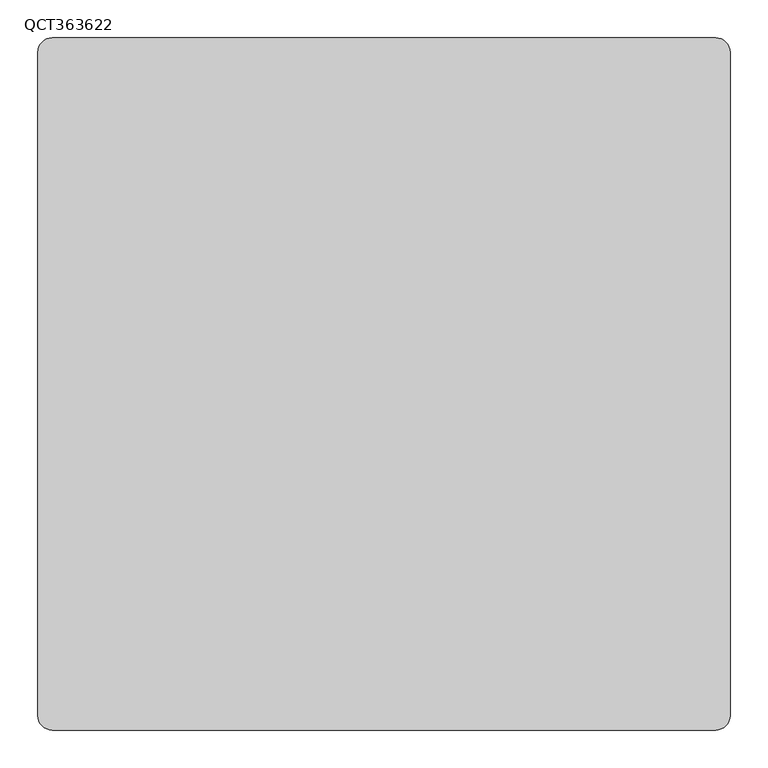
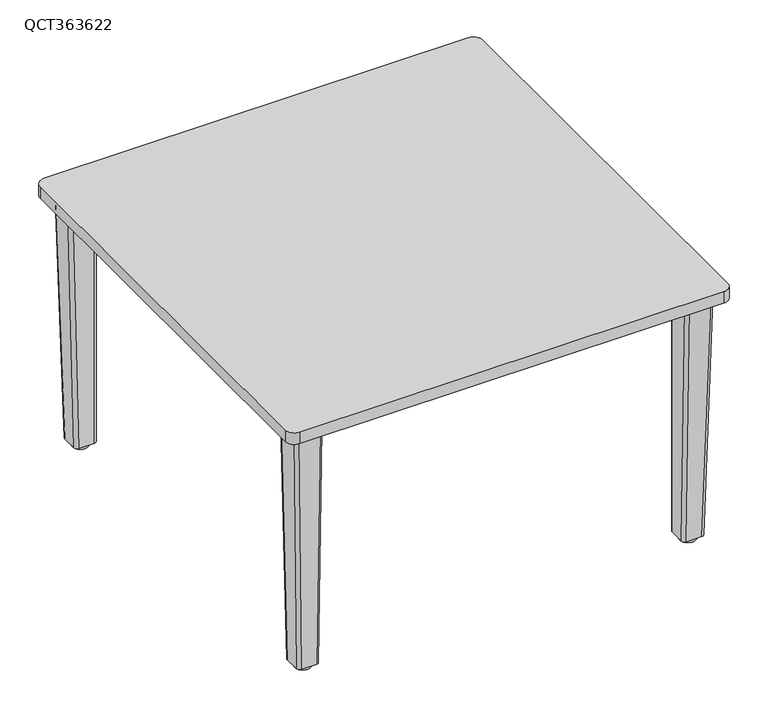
"""IFC4 building model written with IfcOpenShell, lengths in millimetres: furniture geometry, Leland-Quince-Table_Square : QCT363622."""

import ifcopenshell
import ifcopenshell.guid

model = None  # the IFC model being written
_history = None  # IfcOwnerHistory: only IFC2X3 demands one
_inside = {}  # id of a spatial element -> (the spatial element, [elements in it])
_under = {}  # id of a project, library or spatial element -> (it, [spatial elements below it])
_declared = {}  # id of a project -> (the project, [libraries it declares])
_typed = {}  # id of a type object -> (the type object, [elements of that type])
_made_of = {}  # id of a material, layer set ... -> (it, [elements and type objects made of it])


def new_model(schema):
    """Start an empty IFC model of exactly this schema.

    Asked for "IFC4X3", IfcOpenShell would pick the latest addendum, in which some entities
    have other attributes; the version numbers below select the first issue.
    IFC2X3 requires an IfcOwnerHistory on every rooted entity: one is made here for all.
    """
    global model, _history
    if schema == "IFC4X3":
        model = ifcopenshell.file(schema_version=(4, 3, 0, 0))
    else:
        model = ifcopenshell.file(schema=schema)
    _inside.clear()
    _under.clear()
    _declared.clear()
    _typed.clear()
    _made_of.clear()
    _history = None
    if model.schema == "IFC2X3":
        org = make("IfcOrganization", Name="unknown")
        user = make(
            "IfcPersonAndOrganization",
            ThePerson=make("IfcPerson", FamilyName="unknown"),
            TheOrganization=org,
        )
        app = make(
            "IfcApplication",
            ApplicationDeveloper=org,
            Version="unknown",
            ApplicationFullName="unknown",
            ApplicationIdentifier="unknown",
        )
        _history = make(
            "IfcOwnerHistory",
            OwningUser=user,
            OwningApplication=app,
            ChangeAction="ADDED",
            CreationDate=0,
        )
    return model


def make(cls, **values):
    """One entity of the class cls with the attributes given. An attribute that is None is left unset."""
    return model.create_entity(
        cls, **{name: value for name, value in values.items() if value is not None}
    )


def rooted(cls, **values):
    """An entity with a GlobalId (a new one), such as an element, a storey or a relation."""
    return make(cls, GlobalId=ifcopenshell.guid.new(), OwnerHistory=_history, **values)


def si_unit(unit_type, name, prefix=None):
    """IfcSIUnit, for example si_unit("LENGTHUNIT", "METRE", prefix="MILLI")."""
    return make("IfcSIUnit", UnitType=unit_type, Prefix=prefix, Name=name)


def assignment(units):
    """IfcUnitAssignment: the units of a project."""
    return None if units is None else make("IfcUnitAssignment", Units=units)


def point(xyz):
    """IfcCartesianPoint."""
    return None if xyz is None else make("IfcCartesianPoint", Coordinates=xyz)


def direction(xyz):
    """IfcDirection."""
    return None if xyz is None else make("IfcDirection", DirectionRatios=xyz)


def frame(location, z_axis=None, x_axis=None):
    """IfcAxis2Placement3D, a coordinate frame: its origin and axes. An axis left out is left unset."""
    return make(
        "IfcAxis2Placement3D",
        Location=point(location),
        Axis=direction(z_axis),
        RefDirection=direction(x_axis),
    )


def frame_2d(location, x_axis=None):
    """IfcAxis2Placement2D, a coordinate frame in the plane: its origin and x axis."""
    return make(
        "IfcAxis2Placement2D", Location=point(location), RefDirection=direction(x_axis)
    )


def origin():
    """The frame at (0, 0, 0) with its axes left unset."""
    return frame((0.0, 0.0, 0.0))


def origin_with_axes():
    """The frame at (0, 0, 0) with the z axis (0, 0, 1) and the x axis (1, 0, 0) written out."""
    return frame((0.0, 0.0, 0.0), z_axis=(0.0, 0.0, 1.0), x_axis=(1.0, 0.0, 0.0))


def place(relative_to, where):
    """IfcLocalPlacement: puts the frame where relative to a parent placement (None: the world)."""
    return make(
        "IfcLocalPlacement", PlacementRelTo=relative_to, RelativePlacement=where
    )


def context(
    kind, dimensions, precision=None, world=None, true_north=None, identifier=None
):
    """IfcGeometricRepresentationContext, for example the 3D "Model" context."""
    return make(
        "IfcGeometricRepresentationContext",
        ContextIdentifier=identifier,
        ContextType=kind,
        CoordinateSpaceDimension=dimensions,
        Precision=precision,
        WorldCoordinateSystem=world,
        TrueNorth=true_north,
    )


def project(units=None, contexts=None):
    """IfcProject with its units and contexts."""
    return rooted(
        "IfcProject",
        Name="project",
        RepresentationContexts=contexts,
        UnitsInContext=assignment(units),
    )


def spatial(cls, under=None, at=None, **own):
    """A site, building, storey or space (cls), placed at a placement, below another one or the project."""
    s = rooted(cls, ObjectPlacement=at, **own)
    if under is not None:
        _under.setdefault(under.id(), (under, []))[1].append(s)
    return s


def polyline(points):
    """IfcPolyline through the points."""
    return make("IfcPolyline", Points=[point(p) for p in points])


def circle_curve(where, radius):
    """IfcCircle in the frame where."""
    return make("IfcCircle", Position=where, Radius=radius)


def trimmed(basis, trim1, trim2, sense, master):
    """IfcTrimmedCurve: the piece of a basis curve between two trims."""
    return make(
        "IfcTrimmedCurve",
        BasisCurve=basis,
        Trim1=trim1,
        Trim2=trim2,
        SenseAgreement=sense,
        MasterRepresentation=master,
    )


def segment(curve, same_sense, transition):
    """IfcCompositeCurveSegment."""
    return make(
        "IfcCompositeCurveSegment",
        Transition=transition,
        SameSense=same_sense,
        ParentCurve=curve,
    )


def composite_curve(segments, self_intersect=None):
    """IfcCompositeCurve: segments joined end to end."""
    return make("IfcCompositeCurve", Segments=segments, SelfIntersect=self_intersect)


def outline(outer, holes=None, kind="AREA"):
    """IfcArbitraryClosedProfileDef: a profile drawn as a closed curve; with holes, ...WithVoids."""
    if holes is None:
        return make("IfcArbitraryClosedProfileDef", ProfileType=kind, OuterCurve=outer)
    return make(
        "IfcArbitraryProfileDefWithVoids",
        ProfileType=kind,
        OuterCurve=outer,
        InnerCurves=holes,
    )


def extrude(swept, where, along, depth):
    """IfcExtrudedAreaSolid: the profile swept, set in the frame where, extruded along a direction by depth."""
    return make(
        "IfcExtrudedAreaSolid",
        SweptArea=swept,
        Position=where,
        ExtrudedDirection=direction(along),
        Depth=depth,
    )


def shape(context_of_items, identifier, shape_type, items):
    """IfcShapeRepresentation: the items that make up one representation, for example the "Body"."""
    return make(
        "IfcShapeRepresentation",
        ContextOfItems=context_of_items,
        RepresentationIdentifier=identifier,
        RepresentationType=shape_type,
        Items=items,
    )


def source(mapping_origin, context_of_items, identifier, shape_type, items):
    """IfcRepresentationMap: a shape defined once, which mapped items show again and again."""
    return make(
        "IfcRepresentationMap",
        MappingOrigin=mapping_origin,
        MappedRepresentation=shape(context_of_items, identifier, shape_type, items),
    )


def transform(
    local_origin,
    x_axis=None,
    y_axis=None,
    z_axis=None,
    scale=None,
    scale2=None,
    scale3=None,
    uniform=True,
):
    """IfcCartesianTransformationOperator3D, or its non-uniform kind. x_axis, y_axis, z_axis: its Axis1, 2, 3."""
    if uniform:
        return make(
            "IfcCartesianTransformationOperator3D",
            Axis1=direction(x_axis),
            Axis2=direction(y_axis),
            LocalOrigin=point(local_origin),
            Scale=scale,
            Axis3=direction(z_axis),
        )
    return make(
        "IfcCartesianTransformationOperator3DnonUniform",
        Axis1=direction(x_axis),
        Axis2=direction(y_axis),
        LocalOrigin=point(local_origin),
        Scale=scale,
        Axis3=direction(z_axis),
        Scale2=scale2,
        Scale3=scale3,
    )


def mapped(mapping_source, mapping_target):
    """IfcMappedItem: shows the shape of a source again, moved by a transform."""
    return make(
        "IfcMappedItem", MappingSource=mapping_source, MappingTarget=mapping_target
    )


def made_of(thing, what):
    """Note that an element or type object is made of a material, layer set ...; save() writes the relation."""
    if what is not None:
        _made_of.setdefault(what.id(), (what, []))[1].append(thing)
    return thing


def element(
    cls,
    number,
    at=None,
    inside=None,
    cuts=None,
    type_object=None,
    material=None,
    context=None,
    identifier="Body",
    shape_type=None,
    held_by="IfcProductDefinitionShape",
    body=None,
    shapes=None,
    **own,
):
    """One element of the class cls, such as IfcWall. Its Tag is "e" and its number.

    at: its placement. inside: the storey or other place that contains it. cuts: it is an
    opening in that element (IfcRelVoidsElement). A single representation is given by context,
    identifier, shape_type and body (its items); several are given by shapes. held_by: the class
    of the entity that holds the representations. save() writes the other relations.
    """
    e = rooted(cls, Tag="e%d" % number, ObjectPlacement=at, **own)
    if body is not None:
        shapes = [shape(context, identifier, shape_type, body)]
    if shapes is not None:
        e.Representation = make(held_by, Representations=shapes)
    if inside is not None:
        _inside.setdefault(inside.id(), (inside, []))[1].append(e)
    if cuts is not None:
        rooted(
            "IfcRelVoidsElement", RelatingBuildingElement=cuts, RelatedOpeningElement=e
        )
    if type_object is not None:
        _typed.setdefault(type_object.id(), (type_object, []))[1].append(e)
    return made_of(e, material)


def aggregate(whole, parts):
    """IfcRelAggregates: a whole, such as a stair, and the parts it consists of."""
    return rooted("IfcRelAggregates", RelatingObject=whole, RelatedObjects=parts)


def save(model, path):
    """Write the relations noted so far, then the file.

    IfcRelAggregates (storeys below a building ...), IfcRelContainedInSpatialStructure (elements
    in a storey), IfcRelDefinesByType, IfcRelAssociatesMaterial and IfcRelDeclares: one each for
    every whole, place, type object, material and project.
    """
    for whole, parts in _under.values():
        aggregate(whole, parts)
    for where, things in _inside.values():
        rooted(
            "IfcRelContainedInSpatialStructure",
            RelatedElements=things,
            RelatingStructure=where,
        )
    for kind, things in _typed.values():
        rooted("IfcRelDefinesByType", RelatedObjects=things, RelatingType=kind)
    for what, things in _made_of.values():
        rooted("IfcRelAssociatesMaterial", RelatedObjects=things, RelatingMaterial=what)
    for by, libraries in _declared.values():
        rooted("IfcRelDeclares", RelatingContext=by, RelatedDefinitions=libraries)
    model.write(path)


def plane_surface(at):
    """IfcPlane: the flat surface through the origin of the frame at, square to its z axis."""
    return make("IfcPlane", Position=at)


def cylinder_surface(at, radius):
    """IfcCylindricalSurface: all points at the distance radius from the z axis of the frame at."""
    return make("IfcCylindricalSurface", Position=at, Radius=radius)


def extruded_surface(curve, direction_of_extrusion, depth):
    """IfcSurfaceOfLinearExtrusion: the curve pushed along a direction by depth."""
    return make(
        "IfcSurfaceOfLinearExtrusion",
        SweptCurve=make("IfcArbitraryOpenProfileDef", ProfileType="CURVE", Curve=curve),
        ExtrudedDirection=direction(direction_of_extrusion),
        Depth=depth,
    )


def advanced_brep(points, edges, surfaces, faces):
    """IfcAdvancedBrep: a solid bounded by faces that lie on surfaces and meet in shared edges.

    An edge is (start, end): straight between two places in points (the first is 0);
    or (start, end, curve); or (start, end, curve, False) where it runs against its curve.
    A face is (place in surfaces, loops), or (place, loops, False) where it looks against
    its surface's normal. A loop lists edges by number (the first is 1), with a minus sign
    where the edge is run from its end to its start. The first loop is the outer one.
    """
    corners = [point(p) for p in points]
    vertices = [make("IfcVertexPoint", VertexGeometry=c) for c in corners]
    made = []
    for start, end, *more in edges:
        made.append(
            make(
                "IfcEdgeCurve",
                EdgeStart=vertices[start],
                EdgeEnd=vertices[end],
                EdgeGeometry=more[0] if more else make("IfcPolyline", Points=[corners[start], corners[end]]),
                SameSense=more[1] if len(more) > 1 else True,
            )
        )
    hull = []
    for where, loops, *sense in faces:
        bounds = []
        for j, loop in enumerate(loops):
            ring = [make("IfcOrientedEdge", EdgeElement=made[abs(k) - 1], Orientation=k > 0) for k in loop]
            bounds.append(
                make(
                    "IfcFaceOuterBound" if j == 0 else "IfcFaceBound",
                    Bound=make("IfcEdgeLoop", EdgeList=ring),
                    Orientation=True,
                )
            )
        hull.append(make("IfcAdvancedFace", Bounds=bounds, FaceSurface=surfaces[where], SameSense=sense[0] if sense else True))
    return make("IfcAdvancedBrep", Outer=make("IfcClosedShell", CfsFaces=hull))


def qct363622_fa148c54(model_context):
    return source(origin(), model_context, "Body", "SolidModel", [
        advanced_brep(
        [(426.2299122, -375.4482078, 528.6487443), (381.7799122, -375.4482078, 528.6487443), (375.4299122, -381.7982078, 528.6487443), (375.4299122, -426.2482078, 528.6487443), (381.7799122, -432.5982078, 528.6487443), (426.2299122, -432.5982078, 528.6487443), (432.5799122, -426.2482078, 528.6487443), (432.5799122, -381.7982078, 528.6487443), (413.9392552, -375.4482078, 9.5377), (420.2892552, -381.7982078, 9.5377), (420.2892552, -413.9651364, 9.5377), (413.9392552, -420.3151364, 9.5377), (381.7799122, -420.3151364, 9.5377), (375.4299122, -413.9651364, 9.5377), (375.4299122, -381.7982078, 9.5377), (381.7799122, -375.4482078, 9.5377)],
        [
            (0, 1),
            (1, 2, circle_curve(frame((381.7799122, -381.7982078, 528.6487443), z_axis=(0.0, 0.0, 1.0), x_axis=(-1.0, 0.0, 0.0)), 6.35)),
            (2, 3),
            (3, 4, circle_curve(frame((381.7799122, -426.2482078, 528.6487443), z_axis=(0.0, 0.0, 1.0), x_axis=(-1.0, 0.0, 0.0)), 6.35)),
            (4, 5),
            (5, 6, circle_curve(frame((426.2299122, -426.2482078, 528.6487443), z_axis=(0.0, 0.0, 1.0), x_axis=(-1.0, 0.0, 0.0)), 6.35)),
            (6, 7),
            (7, 0, circle_curve(frame((426.2299122, -381.7982078, 528.6487443), z_axis=(0.0, 0.0, 1.0), x_axis=(-1.0, 0.0, 0.0)), 6.35)),
            (8, 9, circle_curve(frame((413.9392552, -381.7982078, 9.5377), z_axis=(0.0, 0.0, -1.0), x_axis=(-1.0, 0.0, 0.0)), 6.35)),
            (9, 10),
            (10, 11, circle_curve(frame((413.9392552, -413.9651364, 9.5377), z_axis=(0.0, 0.0, -1.0), x_axis=(-1.0, 0.0, 0.0)), 6.35)),
            (11, 12),
            (12, 13, circle_curve(frame((381.7799122, -413.9651364, 9.5377), z_axis=(0.0, 0.0, -1.0), x_axis=(-1.0, 0.0, 0.0)), 6.35)),
            (13, 14),
            (14, 15, circle_curve(frame((381.7799122, -381.7982078, 9.5377), z_axis=(0.0, 0.0, -1.0), x_axis=(-1.0, 0.0, 0.0)), 6.35)),
            (15, 8),
            (8, 0),
            (7, 9),
            (6, 10),
            (5, 11),
            (4, 12),
            (3, 13),
            (2, 14),
            (1, 15),
        ],
        [
            plane_surface(frame((404.0049122, -404.0232078, 528.6487443), z_axis=(0.0, 0.0, 1.0), x_axis=(1.0, 0.0, 0.0))),
            plane_surface(frame((397.8595837, -397.8816721, 9.5377), z_axis=(0.0, 0.0, -1.0), x_axis=(1.0, 0.0, 0.0))),
            extruded_surface(trimmed(circle_curve(frame((413.9392552, -381.7982078, 9.5377), z_axis=(0.0, 0.0, 1.0), x_axis=(-1.0, 0.0, 0.0)), 6.35), [point((420.2892552, -381.7982078, 9.5377))], [point((413.9392552, -375.4482078, 9.5377))], True, "CARTESIAN"), (12.29065700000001, 0.0, 519.1110443), 519.2565228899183),
            plane_surface(frame((420.2892552, -397.8816721, 9.5377), z_axis=(0.999719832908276, 0.0, -0.023669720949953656), x_axis=(0.0, 1.0, 0.0))),
            extruded_surface(trimmed(circle_curve(frame((413.9392552, -413.9651364, 9.5377), z_axis=(0.0, 0.0, 1.0), x_axis=(-1.0, 0.0, 0.0)), 6.35), [point((413.9392552, -420.3151364, 9.5377))], [point((420.2892552, -413.9651364, 9.5377))], True, "CARTESIAN"), (12.29065700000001, -12.283071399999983, 519.1110443), 519.4017812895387),
            plane_surface(frame((397.8595837, -420.3151364, 9.5377), z_axis=(0.0, -0.9997201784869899, -0.023655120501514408), x_axis=(1.0, 0.0, 0.0))),
            extruded_surface(trimmed(circle_curve(frame((381.7799122, -413.9651364, 9.5377), z_axis=(0.0, 0.0, 1.0), x_axis=(-1.0, 0.0, 0.0)), 6.35), [point((375.4299122, -413.9651364, 9.5377))], [point((381.7799122, -420.3151364, 9.5377))], True, "CARTESIAN"), (0.0, -12.283071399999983, 519.1110443), 519.2563433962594),
            plane_surface(frame((375.4299122, -397.8816721, 9.5377), z_axis=(-1.0, 0.0, 0.0), x_axis=(0.0, -1.0, 0.0))),
            cylinder_surface(frame((381.7799122, -381.7982078, 9.5377), z_axis=(0.0, 0.0, 1.0), x_axis=(-1.0, 0.0, 0.0)), 6.35),
            plane_surface(frame((397.8595837, -375.4482078, 9.5377), z_axis=(0.0, 1.0, 0.0), x_axis=(-1.0, 0.0, 0.0))),
        ],
        [
            (0, [[1, 2, 3, 4, 5, 6, 7, 8]]),
            (1, [[9, 10, 11, 12, 13, 14, 15, 16]]),
            (2, [[-9, 17, -8, 18]]),
            (3, [[-10, -18, -7, 19]]),
            (4, [[-11, -19, -6, 20]]),
            (5, [[-12, -20, -5, 21]]),
            (6, [[-13, -21, -4, 22]]),
            (7, [[-14, -22, -3, 23]]),
            (8, [[-15, -23, -2, 24]]),
            (9, [[-16, -24, -1, -17]]),
        ],
    ),
        advanced_brep(
        [(-426.2299122, -375.4482078, 528.6487443), (-432.5799122, -381.7982078, 528.6487443), (-432.5799122, -426.2482078, 528.6487443), (-426.2299122, -432.5982078, 528.6487443), (-381.7799122, -432.5982078, 528.6487443), (-375.4299122, -426.2482078, 528.6487443), (-375.4299122, -381.7982078, 528.6487443), (-381.7799122, -375.4482078, 528.6487443), (-413.9392552, -375.4482078, 9.5377), (-381.7799122, -375.4482078, 9.5377), (-375.4299122, -381.7982078, 9.5377), (-375.4299122, -413.9651364, 9.5377), (-381.7799122, -420.3151364, 9.5377), (-413.9392552, -420.3151364, 9.5377), (-420.2892552, -413.9651364, 9.5377), (-420.2892552, -381.7982078, 9.5377)],
        [
            (0, 1, circle_curve(frame((-426.2299122, -381.7982078, 528.6487443), z_axis=(0.0, 0.0, 1.0), x_axis=(1.0, 0.0, 0.0)), 6.35)),
            (1, 2),
            (2, 3, circle_curve(frame((-426.2299122, -426.2482078, 528.6487443), z_axis=(0.0, 0.0, 1.0), x_axis=(1.0, 0.0, 0.0)), 6.35)),
            (3, 4),
            (4, 5, circle_curve(frame((-381.7799122, -426.2482078, 528.6487443), z_axis=(0.0, 0.0, 1.0), x_axis=(1.0, 0.0, 0.0)), 6.35)),
            (5, 6),
            (6, 7, circle_curve(frame((-381.7799122, -381.7982078, 528.6487443), z_axis=(0.0, 0.0, 1.0), x_axis=(0.0, 1.0, 0.0)), 6.35)),
            (7, 0),
            (8, 9),
            (9, 10, circle_curve(frame((-381.7799122, -381.7982078, 9.5377), z_axis=(0.0, 0.0, -1.0), x_axis=(0.0, 1.0, 0.0)), 6.35)),
            (10, 11),
            (11, 12, circle_curve(frame((-381.7799122, -413.9651364, 9.5377), z_axis=(0.0, 0.0, -1.0), x_axis=(1.0, 0.0, 0.0)), 6.35)),
            (12, 13),
            (13, 14, circle_curve(frame((-413.9392552, -413.9651364, 9.5377), z_axis=(0.0, 0.0, -1.0), x_axis=(1.0, 0.0, 0.0)), 6.35)),
            (14, 15),
            (15, 8, circle_curve(frame((-413.9392552, -381.7982078, 9.5377), z_axis=(0.0, 0.0, -1.0), x_axis=(1.0, 0.0, 0.0)), 6.35)),
            (15, 1),
            (0, 8),
            (14, 2),
            (13, 3),
            (12, 4),
            (11, 5),
            (10, 6),
            (9, 7),
        ],
        [
            plane_surface(frame((-404.0049122, -404.0232078, 528.6487443), z_axis=(0.0, 0.0, 1.0), x_axis=(1.0, 0.0, 0.0))),
            plane_surface(frame((-397.8595837, -397.8816721, 9.5377), z_axis=(0.0, 0.0, -1.0), x_axis=(1.0, 0.0, 0.0))),
            extruded_surface(trimmed(circle_curve(frame((-413.9392552, -381.7982078, 9.5377), z_axis=(0.0, 0.0, 1.0), x_axis=(1.0, 0.0, 0.0)), 6.35), [point((-413.9392552, -375.4482078, 9.5377))], [point((-420.2892552, -381.7982078, 9.5377))], True, "CARTESIAN"), (-12.29065700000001, 0.0, 519.1110443), 519.2565228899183),
            plane_surface(frame((-420.2892552, -397.8816721, 9.5377), z_axis=(-0.999719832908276, 0.0, -0.02366972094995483), x_axis=(0.0, -1.0, 0.0))),
            extruded_surface(trimmed(circle_curve(frame((-413.9392552, -413.9651364, 9.5377), z_axis=(0.0, 0.0, 1.0), x_axis=(1.0, 0.0, 0.0)), 6.35), [point((-420.2892552, -413.9651364, 9.5377))], [point((-413.9392552, -420.3151364, 9.5377))], True, "CARTESIAN"), (-12.29065700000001, -12.283071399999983, 519.1110443), 519.4017812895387),
            plane_surface(frame((-397.8595837, -420.3151364, 9.5377), z_axis=(0.0, -0.9997201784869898, -0.023655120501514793), x_axis=(1.0, 0.0, 0.0))),
            extruded_surface(trimmed(circle_curve(frame((-381.7799122, -413.9651364, 9.5377), z_axis=(0.0, 0.0, 1.0), x_axis=(1.0, 0.0, 0.0)), 6.35), [point((-381.7799122, -420.3151364, 9.5377))], [point((-375.4299122, -413.9651364, 9.5377))], True, "CARTESIAN"), (0.0, -12.283071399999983, 519.1110443), 519.2563433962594),
            plane_surface(frame((-375.4299122, -397.8816721, 9.5377), z_axis=(1.0, 0.0, 0.0), x_axis=(0.0, 1.0, 0.0))),
            cylinder_surface(frame((-381.7799122, -381.7982078, 9.5377), z_axis=(0.0, 0.0, 1.0), x_axis=(0.0, 1.0, 0.0)), 6.35),
            plane_surface(frame((-397.8595837, -375.4482078, 9.5377), z_axis=(0.0, 1.0, 0.0), x_axis=(-1.0, 0.0, 0.0))),
        ],
        [
            (0, [[1, 2, 3, 4, 5, 6, 7, 8]]),
            (1, [[9, 10, 11, 12, 13, 14, 15, 16]]),
            (2, [[-16, 17, -1, 18]]),
            (3, [[-15, 19, -2, -17]]),
            (4, [[-14, 20, -3, -19]]),
            (5, [[-13, 21, -4, -20]]),
            (6, [[-12, 22, -5, -21]]),
            (7, [[-11, 23, -6, -22]]),
            (8, [[-10, 24, -7, -23]]),
            (9, [[-9, -18, -8, -24]]),
        ],
    ),
        advanced_brep(
        [(426.2299122, 375.4482078, 528.6487443), (432.5799122, 381.7982078, 528.6487443), (432.5799122, 426.2482078, 528.6487443), (426.2299122, 432.5982078, 528.6487443), (381.7799122, 432.5982078, 528.6487443), (375.4299122, 426.2482078, 528.6487443), (375.4299122, 381.7982078, 528.6487443), (381.7799122, 375.4482078, 528.6487443), (413.9392552, 375.4482078, 9.5377), (381.7799122, 375.4482078, 9.5377), (375.4299122, 381.7982078, 9.5377), (375.4299122, 413.9651364, 9.5377), (381.7799122, 420.3151364, 9.5377), (413.9392552, 420.3151364, 9.5377), (420.2892552, 413.9651364, 9.5377), (420.2892552, 381.7982078, 9.5377)],
        [
            (0, 1, circle_curve(frame((426.2299122, 381.7982078, 528.6487443), z_axis=(0.0, 0.0, 1.0), x_axis=(-1.0, 0.0, 0.0)), 6.35)),
            (1, 2),
            (2, 3, circle_curve(frame((426.2299122, 426.2482078, 528.6487443), z_axis=(0.0, 0.0, 1.0), x_axis=(-1.0, 0.0, 0.0)), 6.35)),
            (3, 4),
            (4, 5, circle_curve(frame((381.7799122, 426.2482078, 528.6487443), z_axis=(0.0, 0.0, 1.0), x_axis=(-1.0, 0.0, 0.0)), 6.35)),
            (5, 6),
            (6, 7, circle_curve(frame((381.7799122, 381.7982078, 528.6487443), z_axis=(0.0, 0.0, 1.0), x_axis=(0.0, -1.0, 0.0)), 6.35)),
            (7, 0),
            (8, 9),
            (9, 10, circle_curve(frame((381.7799122, 381.7982078, 9.5377), z_axis=(0.0, 0.0, -1.0), x_axis=(0.0, -1.0, 0.0)), 6.35)),
            (10, 11),
            (11, 12, circle_curve(frame((381.7799122, 413.9651364, 9.5377), z_axis=(0.0, 0.0, -1.0), x_axis=(-1.0, 0.0, 0.0)), 6.35)),
            (12, 13),
            (13, 14, circle_curve(frame((413.9392552, 413.9651364, 9.5377), z_axis=(0.0, 0.0, -1.0), x_axis=(-1.0, 0.0, 0.0)), 6.35)),
            (14, 15),
            (15, 8, circle_curve(frame((413.9392552, 381.7982078, 9.5377), z_axis=(0.0, 0.0, -1.0), x_axis=(-1.0, 0.0, 0.0)), 6.35)),
            (15, 1),
            (0, 8),
            (14, 2),
            (13, 3),
            (12, 4),
            (11, 5),
            (10, 6),
            (9, 7),
        ],
        [
            plane_surface(frame((404.0049122, 404.0232078, 528.6487443), z_axis=(0.0, 0.0, 1.0), x_axis=(-1.0, 0.0, 0.0))),
            plane_surface(frame((397.8595837, 397.8816721, 9.5377), z_axis=(0.0, 0.0, -1.0), x_axis=(-1.0, 0.0, 0.0))),
            extruded_surface(trimmed(circle_curve(frame((413.9392552, 381.7982078, 9.5377), z_axis=(0.0, 0.0, 1.0), x_axis=(-1.0, 0.0, 0.0)), 6.35), [point((413.9392552, 375.4482078, 9.5377))], [point((420.2892552, 381.7982078, 9.5377))], True, "CARTESIAN"), (12.29065700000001, 0.0, 519.1110443), 519.2565228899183),
            plane_surface(frame((420.2892552, 397.8816721, 9.5377), z_axis=(0.999719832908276, 0.0, -0.023669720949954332), x_axis=(0.0, 1.0, 0.0))),
            extruded_surface(trimmed(circle_curve(frame((413.9392552, 413.9651364, 9.5377), z_axis=(0.0, 0.0, 1.0), x_axis=(-1.0, 0.0, 0.0)), 6.35), [point((420.2892552, 413.9651364, 9.5377))], [point((413.9392552, 420.3151364, 9.5377))], True, "CARTESIAN"), (12.29065700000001, 12.283071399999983, 519.1110443), 519.4017812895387),
            plane_surface(frame((397.8595837, 420.3151364, 9.5377), z_axis=(0.0, 0.9997201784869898, -0.023655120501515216), x_axis=(-1.0, 0.0, 0.0))),
            extruded_surface(trimmed(circle_curve(frame((381.7799122, 413.9651364, 9.5377), z_axis=(0.0, 0.0, 1.0), x_axis=(-1.0, 0.0, 0.0)), 6.35), [point((381.7799122, 420.3151364, 9.5377))], [point((375.4299122, 413.9651364, 9.5377))], True, "CARTESIAN"), (0.0, 12.283071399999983, 519.1110443), 519.2563433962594),
            plane_surface(frame((375.4299122, 397.8816721, 9.5377), z_axis=(-1.0, 0.0, 0.0), x_axis=(0.0, -1.0, 0.0))),
            cylinder_surface(frame((381.7799122, 381.7982078, 9.5377), z_axis=(0.0, 0.0, 1.0), x_axis=(0.0, -1.0, 0.0)), 6.35),
            plane_surface(frame((397.8595837, 375.4482078, 9.5377), z_axis=(0.0, -1.0, 0.0), x_axis=(1.0, 0.0, 0.0))),
        ],
        [
            (0, [[1, 2, 3, 4, 5, 6, 7, 8]]),
            (1, [[9, 10, 11, 12, 13, 14, 15, 16]]),
            (2, [[-16, 17, -1, 18]]),
            (3, [[-15, 19, -2, -17]]),
            (4, [[-14, 20, -3, -19]]),
            (5, [[-13, 21, -4, -20]]),
            (6, [[-12, 22, -5, -21]]),
            (7, [[-11, 23, -6, -22]]),
            (8, [[-10, 24, -7, -23]]),
            (9, [[-9, -18, -8, -24]]),
        ],
    ),
        extrude(outline(composite_curve([segment(trimmed(circle_curve(frame_2d((-397.8595837, 397.8816721)), 16.66875), [point((-414.5283337, 397.8816721))], [point((-381.1908337, 397.8816721))], False, "CARTESIAN"), True, "CONTINUOUS"), segment(trimmed(circle_curve(frame_2d((-397.8595837, 397.8816721)), 16.66875), [point((-381.1908337, 397.8816721))], [point((-414.5283337, 397.8816721))], False, "CARTESIAN"), True, "CONTINUOUS")], self_intersect=False)), origin_with_axes(), (0.0, 0.0, 1.0), 9.5377),
        extrude(outline(composite_curve([segment(trimmed(circle_curve(frame_2d((397.8595837, 397.8816721)), 16.66875), [point((381.1908337, 397.8816721))], [point((414.5283337, 397.8816721))], False, "CARTESIAN"), True, "CONTINUOUS"), segment(trimmed(circle_curve(frame_2d((397.8595837, 397.8816721)), 16.66875), [point((414.5283337, 397.8816721))], [point((381.1908337, 397.8816721))], False, "CARTESIAN"), True, "CONTINUOUS")], self_intersect=False)), origin_with_axes(), (0.0, 0.0, 1.0), 9.5377),
        extrude(outline(composite_curve([segment(trimmed(circle_curve(frame_2d((-397.8595837, -397.8816721)), 16.66875), [point((-414.5283337, -397.8816721))], [point((-381.1908337, -397.8816721))], False, "CARTESIAN"), True, "CONTINUOUS"), segment(trimmed(circle_curve(frame_2d((-397.8595837, -397.8816721)), 16.66875), [point((-381.1908337, -397.8816721))], [point((-414.5283337, -397.8816721))], False, "CARTESIAN"), True, "CONTINUOUS")], self_intersect=False)), origin_with_axes(), (0.0, 0.0, 1.0), 9.5377),
        extrude(outline(composite_curve([segment(trimmed(circle_curve(frame_2d((397.8595837, -397.8816721)), 16.66875), [point((381.1908337, -397.8816721))], [point((414.5283337, -397.8816721))], False, "CARTESIAN"), True, "CONTINUOUS"), segment(trimmed(circle_curve(frame_2d((397.8595837, -397.8816721)), 16.66875), [point((414.5283337, -397.8816721))], [point((381.1908337, -397.8816721))], False, "CARTESIAN"), True, "CONTINUOUS")], self_intersect=False)), origin_with_axes(), (0.0, 0.0, 1.0), 9.5377),
        extrude(outline(polyline([(-327.81875, 429.41875), (-327.81875, 327.81875), (-429.41875, 327.81875), (-429.41875, 429.41875), (-327.81875, 429.41875)])), frame((0.0, 0.0, 528.6487443), z_axis=(0.0, 0.0, 1.0), x_axis=(1.0, 0.0, 0.0)), (0.0, 0.0, 1.0), 4.7625),
        extrude(outline(polyline([(327.81875, 429.41875), (429.41875, 429.41875), (429.41875, 327.81875), (327.81875, 327.81875), (327.81875, 429.41875)])), frame((0.0, 0.0, 528.6487443), z_axis=(0.0, 0.0, 1.0), x_axis=(1.0, 0.0, 0.0)), (0.0, 0.0, 1.0), 4.7625),
        extrude(outline(polyline([(-327.81875, -429.41875), (-429.41875, -429.41875), (-429.41875, -327.81875), (-327.81875, -327.81875), (-327.81875, -429.41875)])), frame((0.0, 0.0, 528.6487443), z_axis=(0.0, 0.0, 1.0), x_axis=(1.0, 0.0, 0.0)), (0.0, 0.0, 1.0), 4.7625),
        extrude(outline(polyline([(327.81875, -429.41875), (327.81875, -327.81875), (429.41875, -327.81875), (429.41875, -429.41875), (327.81875, -429.41875)])), frame((0.0, 0.0, 528.6487443), z_axis=(0.0, 0.0, 1.0), x_axis=(1.0, 0.0, 0.0)), (0.0, 0.0, 1.0), 4.7625),
        advanced_brep(
        [(-426.2299122, 375.4482078, 528.6487443), (-381.7799122, 375.4482078, 528.6487443), (-375.4299122, 381.7982078, 528.6487443), (-375.4299122, 426.2482078, 528.6487443), (-381.7799122, 432.5982078, 528.6487443), (-426.2299122, 432.5982078, 528.6487443), (-432.5799122, 426.2482078, 528.6487443), (-432.5799122, 381.7982078, 528.6487443), (-413.9392552, 375.4482078, 9.5377), (-420.2892552, 381.7982078, 9.5377), (-420.2892552, 413.9651364, 9.5377), (-413.9392552, 420.3151364, 9.5377), (-381.7799122, 420.3151364, 9.5377), (-375.4299122, 413.9651364, 9.5377), (-375.4299122, 381.7982078, 9.5377), (-381.7799122, 375.4482078, 9.5377)],
        [
            (0, 1),
            (1, 2, circle_curve(frame((-381.7799122, 381.7982078, 528.6487443), z_axis=(0.0, 0.0, 1.0), x_axis=(1.0, 0.0, 0.0)), 6.35)),
            (2, 3),
            (3, 4, circle_curve(frame((-381.7799122, 426.2482078, 528.6487443), z_axis=(0.0, 0.0, 1.0), x_axis=(1.0, 0.0, 0.0)), 6.35)),
            (4, 5),
            (5, 6, circle_curve(frame((-426.2299122, 426.2482078, 528.6487443), z_axis=(0.0, 0.0, 1.0), x_axis=(1.0, 0.0, 0.0)), 6.35)),
            (6, 7),
            (7, 0, circle_curve(frame((-426.2299122, 381.7982078, 528.6487443), z_axis=(0.0, 0.0, 1.0), x_axis=(1.0, 0.0, 0.0)), 6.35)),
            (8, 9, circle_curve(frame((-413.9392552, 381.7982078, 9.5377), z_axis=(0.0, 0.0, -1.0), x_axis=(1.0, 0.0, 0.0)), 6.35)),
            (9, 10),
            (10, 11, circle_curve(frame((-413.9392552, 413.9651364, 9.5377), z_axis=(0.0, 0.0, -1.0), x_axis=(1.0, 0.0, 0.0)), 6.35)),
            (11, 12),
            (12, 13, circle_curve(frame((-381.7799122, 413.9651364, 9.5377), z_axis=(0.0, 0.0, -1.0), x_axis=(1.0, 0.0, 0.0)), 6.35)),
            (13, 14),
            (14, 15, circle_curve(frame((-381.7799122, 381.7982078, 9.5377), z_axis=(0.0, 0.0, -1.0), x_axis=(1.0, 0.0, 0.0)), 6.35)),
            (15, 8),
            (8, 0),
            (7, 9),
            (6, 10),
            (5, 11),
            (4, 12),
            (3, 13),
            (2, 14),
            (1, 15),
        ],
        [
            plane_surface(frame((-404.0049122, 404.0232078, 528.6487443), z_axis=(0.0, 0.0, 1.0), x_axis=(-1.0, 0.0, 0.0))),
            plane_surface(frame((-397.8595837, 397.8816721, 9.5377), z_axis=(0.0, 0.0, -1.0), x_axis=(-1.0, 0.0, 0.0))),
            extruded_surface(trimmed(circle_curve(frame((-413.9392552, 381.7982078, 9.5377), z_axis=(0.0, 0.0, 1.0), x_axis=(1.0, 0.0, 0.0)), 6.35), [point((-420.2892552, 381.7982078, 9.5377))], [point((-413.9392552, 375.4482078, 9.5377))], True, "CARTESIAN"), (-12.29065700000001, 0.0, 519.1110443), 519.2565228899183),
            plane_surface(frame((-420.2892552, 397.8816721, 9.5377), z_axis=(-0.999719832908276, 0.0, -0.023669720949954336), x_axis=(0.0, -1.0, 0.0))),
            extruded_surface(trimmed(circle_curve(frame((-413.9392552, 413.9651364, 9.5377), z_axis=(0.0, 0.0, 1.0), x_axis=(1.0, 0.0, 0.0)), 6.35), [point((-413.9392552, 420.3151364, 9.5377))], [point((-420.2892552, 413.9651364, 9.5377))], True, "CARTESIAN"), (-12.29065700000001, 12.283071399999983, 519.1110443), 519.4017812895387),
            plane_surface(frame((-397.8595837, 420.3151364, 9.5377), z_axis=(0.0, 0.9997201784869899, -0.023655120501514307), x_axis=(-1.0, 0.0, 0.0))),
            extruded_surface(trimmed(circle_curve(frame((-381.7799122, 413.9651364, 9.5377), z_axis=(0.0, 0.0, 1.0), x_axis=(1.0, 0.0, 0.0)), 6.35), [point((-375.4299122, 413.9651364, 9.5377))], [point((-381.7799122, 420.3151364, 9.5377))], True, "CARTESIAN"), (0.0, 12.283071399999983, 519.1110443), 519.2563433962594),
            plane_surface(frame((-375.4299122, 397.8816721, 9.5377), z_axis=(1.0, 0.0, 0.0), x_axis=(0.0, 1.0, 0.0))),
            cylinder_surface(frame((-381.7799122, 381.7982078, 9.5377), z_axis=(0.0, 0.0, 1.0), x_axis=(1.0, 0.0, 0.0)), 6.35),
            plane_surface(frame((-397.8595837, 375.4482078, 9.5377), z_axis=(0.0, -1.0, 0.0), x_axis=(1.0, 0.0, 0.0))),
        ],
        [
            (0, [[1, 2, 3, 4, 5, 6, 7, 8]]),
            (1, [[9, 10, 11, 12, 13, 14, 15, 16]]),
            (2, [[-9, 17, -8, 18]]),
            (3, [[-10, -18, -7, 19]]),
            (4, [[-11, -19, -6, 20]]),
            (5, [[-12, -20, -5, 21]]),
            (6, [[-13, -21, -4, 22]]),
            (7, [[-14, -22, -3, 23]]),
            (8, [[-15, -23, -2, 24]]),
            (9, [[-16, -24, -1, -17]]),
        ],
    ),
        extrude(outline(composite_curve([segment(trimmed(circle_curve(frame_2d((438.15, 438.15)), 19.05), [point((438.15, 457.2))], [point((457.2, 438.15))], False, "CARTESIAN"), True, "CONTINUOUS"), segment(polyline([(457.2, 438.15), (457.2, -438.15)]), True, "CONTINUOUS"), segment(trimmed(circle_curve(frame_2d((438.15, -438.15)), 19.05), [point((457.2, -438.15))], [point((438.15, -457.2))], False, "CARTESIAN"), True, "CONTINUOUS"), segment(polyline([(438.15, -457.2), (-438.15, -457.2)]), True, "CONTINUOUS"), segment(trimmed(circle_curve(frame_2d((-438.15, -438.15)), 19.05), [point((-438.15, -457.2))], [point((-457.2, -438.15))], False, "CARTESIAN"), True, "CONTINUOUS"), segment(polyline([(-457.2, -438.15), (-457.2, 438.15)]), True, "CONTINUOUS"), segment(trimmed(circle_curve(frame_2d((-438.15, 438.15)), 19.05), [point((-457.2, 438.15))], [point((-438.15, 457.2))], False, "CARTESIAN"), True, "CONTINUOUS"), segment(polyline([(-438.15, 457.2), (438.15, 457.2)]), True, "CONTINUOUS")], self_intersect=False)), frame((0.0, 0.0, 533.4112443), z_axis=(0.0, 0.0, 1.0), x_axis=(1.0, 0.0, 0.0)), (0.0, 0.0, 1.0), 25.3887557),
    ])


if __name__ == "__main__":
    model = new_model("IFC4")
    model_context = context("Model", 3, world=origin())
    ifc_project = project(units=[si_unit("LENGTHUNIT", "METRE", prefix="MILLI")], contexts=[model_context])
    site = spatial("IfcSite", under=ifc_project)
    building = spatial("IfcBuilding", under=site)
    placement = place(None, origin())
    qct363622_shape = qct363622_fa148c54(model_context)
    element("IfcFurniture", 1, ObjectType="Leland-Quince-Table_Square : QCT363622", at=placement, inside=building, context=model_context, shape_type="MappedRepresentation", body=[
        mapped(qct363622_shape, transform((0.0, 0.0, 0.0), x_axis=(1.0, 0.0, 0.0), y_axis=(0.0, 1.0, 0.0), z_axis=(0.0, 0.0, 1.0))),
    ])
    save(model, "model.ifc")
